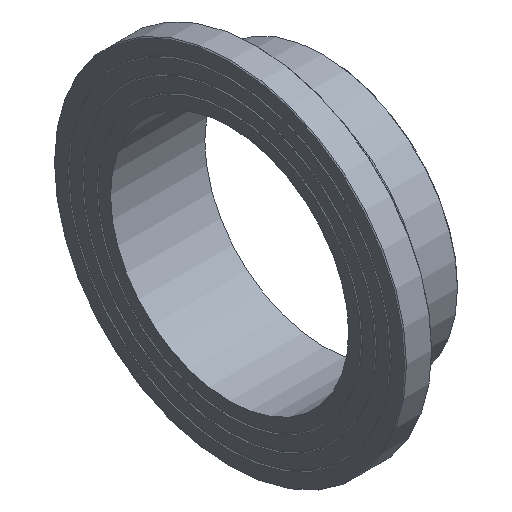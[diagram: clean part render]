
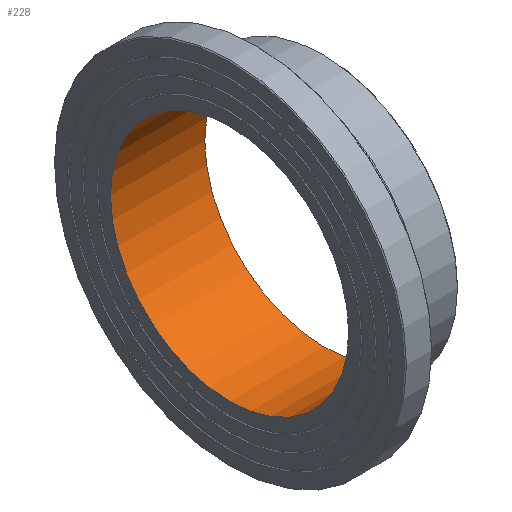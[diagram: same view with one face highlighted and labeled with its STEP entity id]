
A CAD part, isometric view. The second image highlights one B-rep face of the part: STEP entity #228.
In plain terms, the highlighted cylindrical face has radius 198.3 mm (diameter 396.6 mm), a full revolution.
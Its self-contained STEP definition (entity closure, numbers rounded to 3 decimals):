
#33=CYLINDRICAL_SURFACE('',#274,198.3);
#50=ORIENTED_EDGE('',*,*,#79,.F.);
#51=ORIENTED_EDGE('',*,*,#76,.T.);
#76=EDGE_CURVE('',#96,#96,#116,.T.);
#79=EDGE_CURVE('',#99,#99,#119,.T.);
#96=VERTEX_POINT('',#383);
#99=VERTEX_POINT('',#390);
#116=CIRCLE('',#257,198.3);
#119=CIRCLE('',#261,198.3);
#150=EDGE_LOOP('',(#50));
#151=EDGE_LOOP('',(#51));
#190=FACE_BOUND('',#150,.T.);
#191=FACE_BOUND('',#151,.T.);
#228=ADVANCED_FACE('',(#190,#191),#33,.F.);
#257=AXIS2_PLACEMENT_3D('',#382,#303,#304);
#261=AXIS2_PLACEMENT_3D('',#389,#311,#312);
#274=AXIS2_PLACEMENT_3D('',#410,#337,#338);
#303=DIRECTION('',(-1.,0.,0.));
#304=DIRECTION('',(0.,0.,1.));
#311=DIRECTION('',(-1.,0.,0.));
#312=DIRECTION('',(0.,0.,1.));
#337=DIRECTION('',(-1.,0.,0.));
#338=DIRECTION('',(0.,0.,1.));
#382=CARTESIAN_POINT('',(0.,0.,0.));
#383=CARTESIAN_POINT('',(0.,0.,198.3));
#389=CARTESIAN_POINT('',(157.,0.,0.));
#390=CARTESIAN_POINT('',(157.,0.,198.3));
#410=CARTESIAN_POINT('',(60.,0.,0.));
